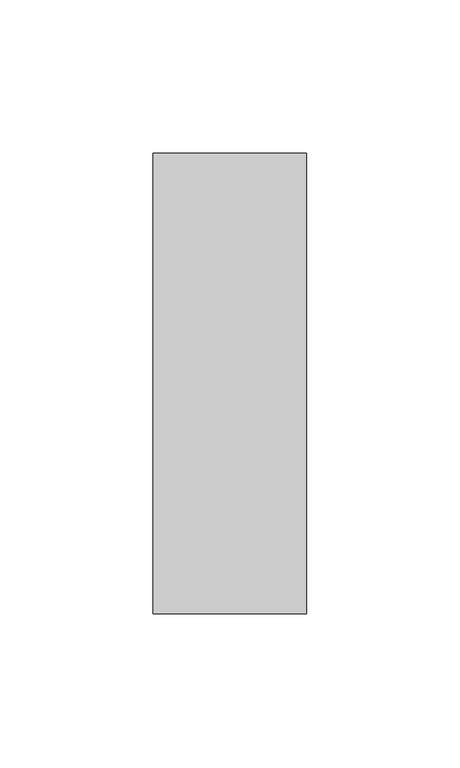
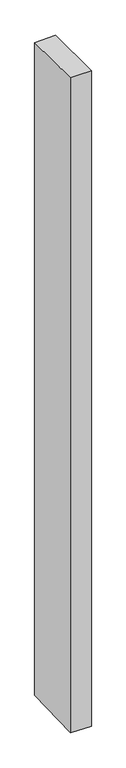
"""IFC4 building model written with IfcOpenShell, lengths in millimetres: member geometry, Прямоугольный импост : 50 x 150 мм."""

from ifc_helpers import new_model, si_unit, origin, place, context, project, spatial, faceted_brep, source, transform, mapped, element, save


def member_d6946faa(model_context):
    return source(origin(), model_context, "Body", "Brep", [
        faceted_brep([(-25.0, 75.0, -1.3098121), (25.0, 75.0, 0.0209306), (25.0, 75.0, -1667.3732663), (-25.0, 75.0, -1666.1077744), (-25.0, -75.0, -0.0209306), (-25.0, -75.0, -1669.9074603), (25.0, -75.0, 1.3098121), (25.0, -75.0, -1671.1729522)], [[[0, 1, 2, 3]], [[4, 0, 3, 5]], [[6, 4, 5, 7]], [[1, 6, 7, 2]], [[1, 0, 4, 6]], [[2, 7, 5, 3]]]),
    ])


if __name__ == "__main__":
    model = new_model("IFC4")
    model_context = context("Model", 3, world=origin())
    ifc_project = project(units=[si_unit("LENGTHUNIT", "METRE", prefix="MILLI")], contexts=[model_context])
    site = spatial("IfcSite", under=ifc_project)
    building = spatial("IfcBuilding", under=site)
    placement = place(None, origin())
    member_shape = member_d6946faa(model_context)
    element("IfcMember", 1, ObjectType="Прямоугольный импост : 50 x 150 мм", at=placement, inside=building, context=model_context, shape_type="MappedRepresentation", body=[
        mapped(member_shape, transform((0.0, 0.0, 0.0), x_axis=(1.0, 0.0, 0.0), y_axis=(0.0, 1.0, 0.0), z_axis=(0.0, 0.0, 1.0))),
    ])
    save(model, "model.ifc")
